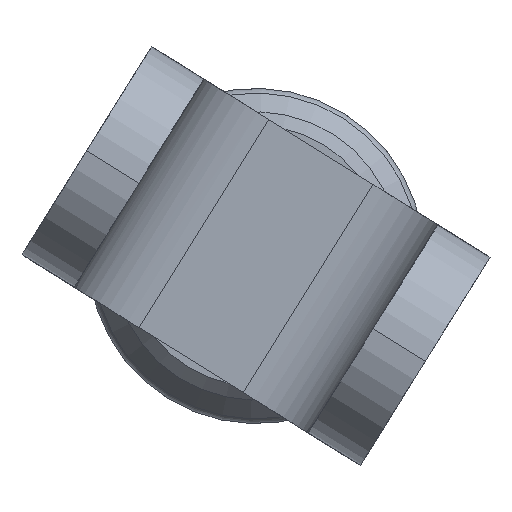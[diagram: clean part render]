
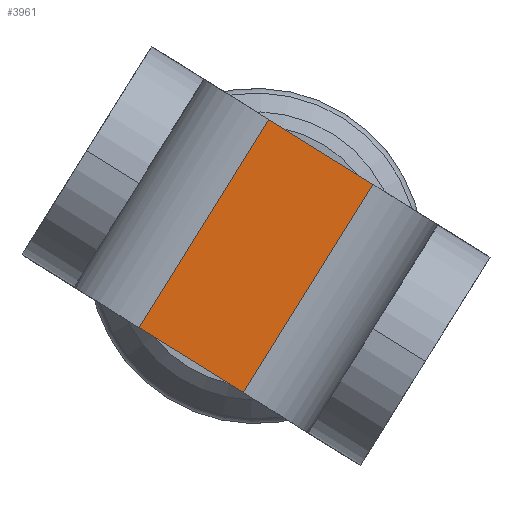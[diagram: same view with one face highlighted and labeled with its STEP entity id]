
A CAD part, front view. The second image highlights one B-rep face of the part: STEP entity #3961.
In plain terms, the highlighted planar face has unit normal (0, -1, 0).
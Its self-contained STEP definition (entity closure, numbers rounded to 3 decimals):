
#68 = CARTESIAN_POINT ( 'NONE',  ( 68.486, -33., -1182.232 ) ) ;
#207 = DIRECTION ( 'NONE',  ( -0.849, 0., 0.529 ) ) ;
#254 = LINE ( 'NONE', #1472, #362 ) ;
#270 = EDGE_LOOP ( 'NONE', ( #498, #2340, #3828, #2853 ) ) ;
#362 = VECTOR ( 'NONE', #207, 1000. ) ;
#498 = ORIENTED_EDGE ( 'NONE', *, *, #1195, .T. ) ;
#795 = VECTOR ( 'NONE', #3109, 1000. ) ;
#1016 = EDGE_CURVE ( 'NONE', #1386, #2761, #3542, .T. ) ;
#1118 = VECTOR ( 'NONE', #1143, 1000. ) ;
#1143 = DIRECTION ( 'NONE',  ( 0.529, 0., 0.849 ) ) ;
#1195 = EDGE_CURVE ( 'NONE', #2761, #1846, #1890, .T. ) ;
#1238 = PLANE ( 'NONE',  #1721 ) ;
#1268 = CARTESIAN_POINT ( 'NONE',  ( 68.486, -33., -1182.232 ) ) ;
#1386 = VERTEX_POINT ( 'NONE', #3225 ) ;
#1431 = CARTESIAN_POINT ( 'NONE',  ( 61.696, -33., -1178.003 ) ) ;
#1444 = VECTOR ( 'NONE', #1918, 1000. ) ;
#1472 = CARTESIAN_POINT ( 'NONE',  ( 60.027, -33., -1195.813 ) ) ;
#1721 = AXIS2_PLACEMENT_3D ( 'NONE', #3100, #2763, #1908 ) ;
#1846 = VERTEX_POINT ( 'NONE', #1431 ) ;
#1884 = FACE_OUTER_BOUND ( 'NONE', #270, .T. ) ;
#1890 = LINE ( 'NONE', #1268, #795 ) ;
#1908 = DIRECTION ( 'NONE',  ( 0.849, 0., -0.529 ) ) ;
#1918 = DIRECTION ( 'NONE',  ( 0.529, 0., 0.849 ) ) ;
#1923 = CARTESIAN_POINT ( 'NONE',  ( 53.236, -33., -1191.583 ) ) ;
#2137 = VERTEX_POINT ( 'NONE', #1923 ) ;
#2310 = CARTESIAN_POINT ( 'NONE',  ( 60.027, -33., -1195.813 ) ) ;
#2340 = ORIENTED_EDGE ( 'NONE', *, *, #2561, .F. ) ;
#2550 = LINE ( 'NONE', #2871, #1444 ) ;
#2561 = EDGE_CURVE ( 'NONE', #2137, #1846, #2550, .T. ) ;
#2761 = VERTEX_POINT ( 'NONE', #68 ) ;
#2763 = DIRECTION ( 'NONE',  ( 0., 1., 0. ) ) ;
#2853 = ORIENTED_EDGE ( 'NONE', *, *, #1016, .T. ) ;
#2871 = CARTESIAN_POINT ( 'NONE',  ( 53.236, -33., -1191.583 ) ) ;
#3100 = CARTESIAN_POINT ( 'NONE',  ( 60.027, -33., -1195.813 ) ) ;
#3109 = DIRECTION ( 'NONE',  ( -0.849, 0., 0.529 ) ) ;
#3225 = CARTESIAN_POINT ( 'NONE',  ( 60.027, -33., -1195.813 ) ) ;
#3444 = EDGE_CURVE ( 'NONE', #1386, #2137, #254, .T. ) ;
#3542 = LINE ( 'NONE', #2310, #1118 ) ;
#3828 = ORIENTED_EDGE ( 'NONE', *, *, #3444, .F. ) ;
#3961 = ADVANCED_FACE ( 'NONE', ( #1884 ), #1238, .F. ) ;
